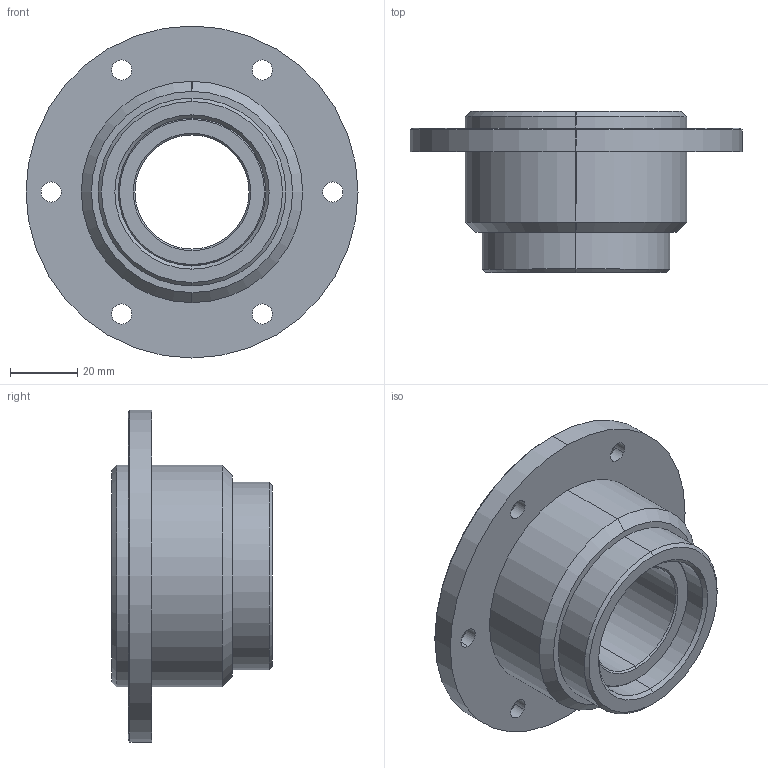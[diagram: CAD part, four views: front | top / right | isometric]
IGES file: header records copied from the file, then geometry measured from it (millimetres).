
Start section: 3D InterOp IGES (Version 20 0 1), Spatial Corp. Copyright (c) 1999-2007.
Global section: file name: 10.13.03.igs; native system: Spatial Corp.; preprocessor: 3D InterOp GENERIC/IGES 3.0; author: Noname; organization: Noname; date: 20111110.164240; units: metre
Bounding box: 99 x 48 x 99 mm (x, y, z)
Surface area: 40183.7 mm2 (no closed solid volume)
Topology: 0 solids, 0 shells, 91 faces, 812 edges, 1186 vertices
Faces by surface type: revolution 76, extrusion 15
